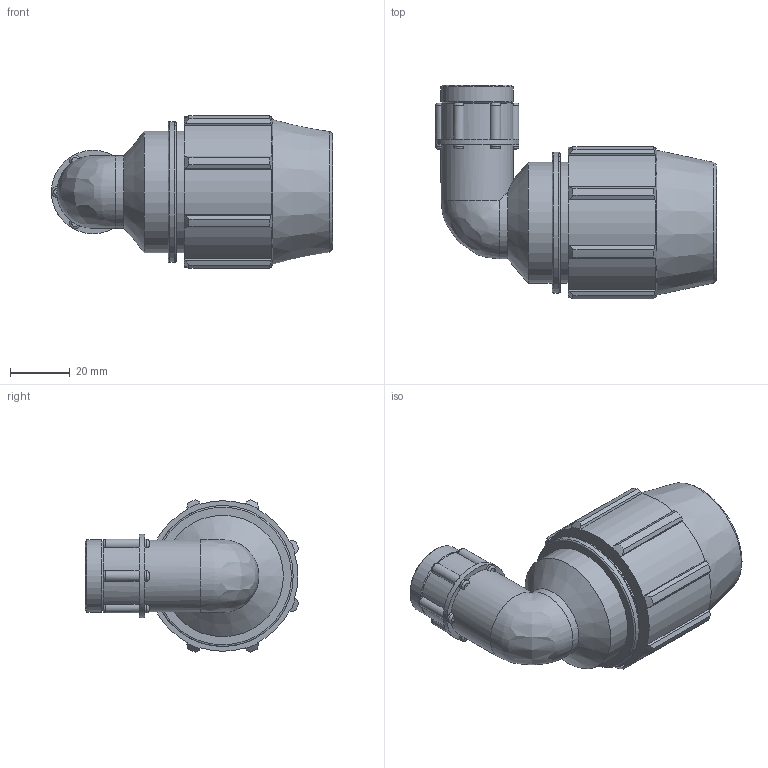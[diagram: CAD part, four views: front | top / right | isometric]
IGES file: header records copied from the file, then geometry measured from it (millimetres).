
Global section: file name: 0715M0007005.ipt; native system: Autodesk Inventor 2019; preprocessor: unknown; author: KIM; date: 20210826.124746; units: inch
Bounding box: 93.94 x 71.43 x 50.91 mm (x, y, z)
Volume: 94206.6 mm3; surface area: 26872.7 mm2
Topology: 1 solids, 1 shells, 139 faces, 384 edges, 251 vertices
Faces by surface type: plane 60, cylinder 41, revolution 22, cone 14, bspline 2
Full cylindrical faces by diameter (mm): 24.22 x2, 27.853 x1, 40.576 x2, 47.069 x1
